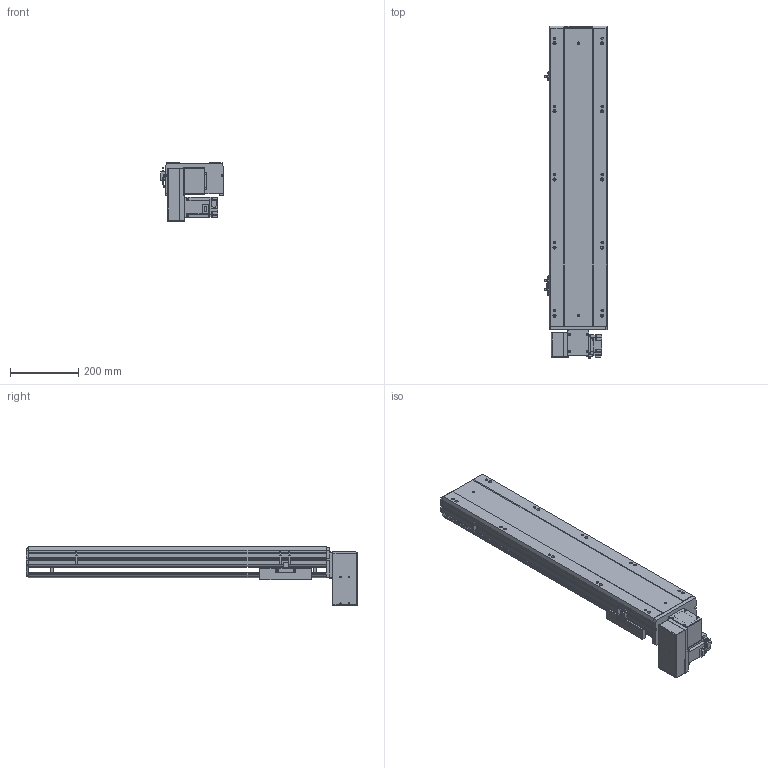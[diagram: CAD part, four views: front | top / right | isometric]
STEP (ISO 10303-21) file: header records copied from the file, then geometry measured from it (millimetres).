
FILE_DESCRIPTION (( 'STEP AP203' ), '1' );
FILE_NAME ('BTB17-L40-600-RU-M40-C4.STEP', '2022-07-20T09:01:39', ( 'CXY' ), ( 'BT' ), 'SwSTEP 2.0', 'SolidWorks 2016', '' );
FILE_SCHEMA (( 'CONFIG_CONTROL_DESIGN' ));
Length unit declared in the file: millimetre
Products named in the file (11): BTB17-L-24; BTB17-L-04; BTB17-L-06; BTB17-L-HZ; M40; BTB17-L-菁釱_XD; BTB17-L-01; BTB17-L40-600-RU-M40-C4; BTB17-L-23; FS-07-T40(1); FS-08-T40
Assembly tree (13 placements, depth 2):
  BTB17-L40-600-RU-M40-C4
    BTB17-L-菁釱_XD
    BTB17-L-01
    BTB17-L-04  x3
    BTB17-L-06
    BTB17-L-23  x2
    BTB17-L-24
    BTB17-L-HZ
    FS-07-T40(1)
    FS-08-T40
    M40
Bounding box: 183.7 x 975.3 x 171.5 mm (x, y, z)
Volume: 8494276 mm3; surface area: 1222963.6 mm2
Topology: 22 solids, 22 shells, 1579 faces, 4163 edges, 2644 vertices
Faces by surface type: plane 903, cylinder 500, cone 144, torus 16, bspline 16
Entity records: 40966 total; most frequent: CARTESIAN_POINT 8086, DIRECTION 6653, ORIENTED_EDGE 6494, EDGE_CURVE 3247, AXIS2_PLACEMENT_3D 2233, VECTOR 2187, LINE 2187, VERTEX_POINT 2112
